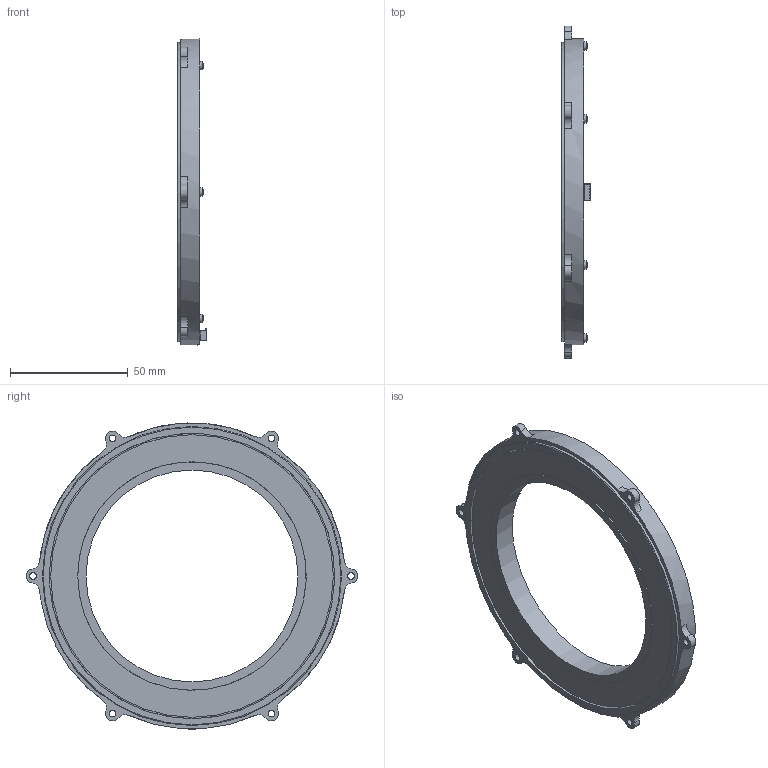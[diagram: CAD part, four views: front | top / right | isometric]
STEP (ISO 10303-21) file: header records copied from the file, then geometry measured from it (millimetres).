
FILE_DESCRIPTION(('STEP AP214'), '1');
FILE_NAME('蟲鰍-130', '2025-02-21T22:07:02', (''), (''), 'C3D Converter', 'C3D Toolkit', '');
FILE_SCHEMA(('AUTOMOTIVE_DESIGN { 1 0 10303 214 3 1 1}'));
Length unit declared in the file: millimetre
Products named in the file (9): ВОДП-130; Деталь1; Вал; Корпус; Плата; Разъем; PCB; Сенсор
Assembly tree (13 placements, depth 3):
  ВОДП-130
    (unnamed)  x6
    Деталь1
    Вал
    Корпус
    Плата
      Разъем
      PCB
      Сенсор
Bounding box: 12.7 x 140.98 x 129.96 mm (x, y, z)
Volume: 36451.1 mm3; surface area: 45854.8 mm2
Topology: 12 solids, 12 shells, 494 faces, 1275 edges, 841 vertices
Faces by surface type: plane 339, cylinder 104, bspline 32, cone 13, sphere 6
Full cylindrical faces by diameter (mm): 0.5 x6, 1.6 x12, 1.7 x6, 2 x6, 2.2 x6, 2.8 x6, 3.5 x6, 90 x1, 97 x3, 98 x1, 105 x1, 115 x1, 118 x1, 120 x1, 121.2 x1, 127 x2, 128 x1, 130 x1
Entity records: 10295 total; most frequent: CARTESIAN_POINT 1843, ORIENTED_EDGE 1172, DIRECTION 1135, EDGE_CURVE 586, AXIS2_PLACEMENT_3D 457, VERTEX_POINT 433, EDGE_LOOP 373, FACE_BOUND 324
